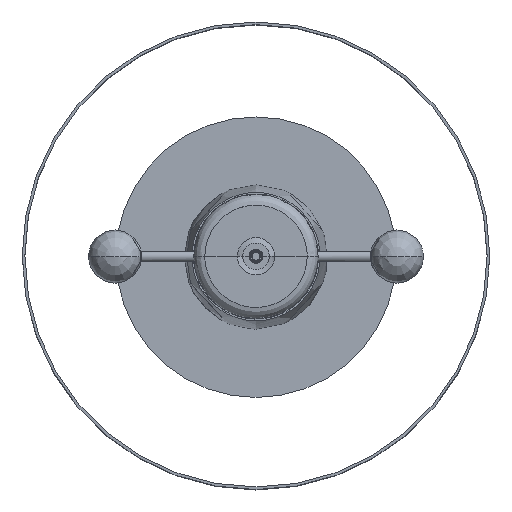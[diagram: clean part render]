
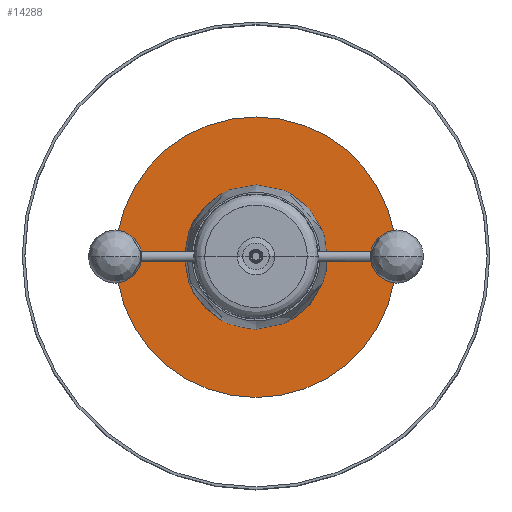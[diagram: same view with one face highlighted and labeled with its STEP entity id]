
A CAD part, top view. The second image highlights one B-rep face of the part: STEP entity #14288.
In plain terms, the highlighted planar face has unit normal (0, 0, 1).
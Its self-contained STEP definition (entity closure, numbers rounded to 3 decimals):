
#669 = PLANE ( 'NONE',  #35036 ) ;
#1040 = DIRECTION ( 'NONE',  ( 0., 0., 1. ) ) ;
#5641 = ORIENTED_EDGE ( 'NONE', *, *, #15030, .T. ) ;
#6482 = CARTESIAN_POINT ( 'NONE',  ( -2476.515, 0., 887. ) ) ;
#7021 = DIRECTION ( 'NONE',  ( 1., 0., 0. ) ) ;
#7028 = CARTESIAN_POINT ( 'NONE',  ( -2371.515, 0., 887. ) ) ;
#12234 = EDGE_LOOP ( 'NONE', ( #17079, #5641 ) ) ;
#12620 = VERTEX_POINT ( 'NONE', #7028 ) ;
#13524 = CARTESIAN_POINT ( 'NONE',  ( -2476.515, 0., 887. ) ) ;
#13540 = CARTESIAN_POINT ( 'NONE',  ( -2581.515, 0., 887. ) ) ;
#13921 = VERTEX_POINT ( 'NONE', #13540 ) ;
#14288 = ADVANCED_FACE ( 'NONE', ( #24052 ), #669, .T. ) ;
#15030 = EDGE_CURVE ( 'NONE', #13921, #12620, #21443, .T. ) ;
#17079 = ORIENTED_EDGE ( 'NONE', *, *, #34676, .T. ) ;
#19093 = DIRECTION ( 'NONE',  ( 1., 0., 0. ) ) ;
#21354 = CARTESIAN_POINT ( 'NONE',  ( -2476.515, 0., 887. ) ) ;
#21443 = CIRCLE ( 'NONE', #32956, 105. ) ;
#22580 = CIRCLE ( 'NONE', #31030, 105. ) ;
#24052 = FACE_OUTER_BOUND ( 'NONE', #12234, .T. ) ;
#24544 = DIRECTION ( 'NONE',  ( 0., 0., 1. ) ) ;
#31030 = AXIS2_PLACEMENT_3D ( 'NONE', #13524, #24544, #19093 ) ;
#32956 = AXIS2_PLACEMENT_3D ( 'NONE', #21354, #35119, #7021 ) ;
#34676 = EDGE_CURVE ( 'NONE', #12620, #13921, #22580, .T. ) ;
#34818 = DIRECTION ( 'NONE',  ( 1., 0., 0. ) ) ;
#35036 = AXIS2_PLACEMENT_3D ( 'NONE', #6482, #1040, #34818 ) ;
#35119 = DIRECTION ( 'NONE',  ( 0., 0., 1. ) ) ;
